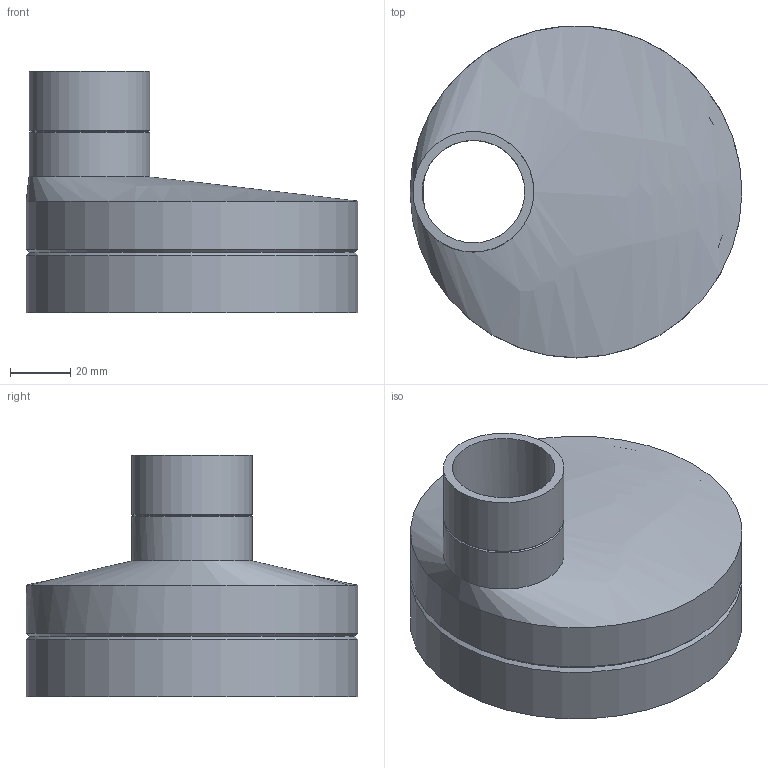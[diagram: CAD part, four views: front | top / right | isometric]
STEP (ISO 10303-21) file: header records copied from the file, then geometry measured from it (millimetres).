
FILE_DESCRIPTION(/* description */ (''),/* implementation_level */ '2;1');
FILE_NAME(/* name */ 'Z:\Geberit\Export\NewStep\367558.stp',/* time_stamp */ '2014-04-02T07:57:27+02:00',/* author */ ('nelson'),/* organization */ (''),/* preprocessor_version */ 'ST-DEVELOPER v15.2',/* originating_system */ 'Autodesk Inventor 2014',/* authorisation */ '');
FILE_SCHEMA (('AUTOMOTIVE_DESIGN { 1 0 10303 214 3 1 1 }'));
Length unit declared in the file: millimetre
Products named in the file (1): 367558
Bounding box: 110 x 110 x 80 mm (x, y, z)
Volume: 71346.6 mm3; surface area: 51163 mm2
Topology: 1 solids, 1 shells, 14 faces, 38 edges, 26 vertices
Faces by surface type: cylinder 6, cone 4, bspline 2, plane 2
Full cylindrical faces by diameter (mm): 34 x1, 40 x2, 101.4 x1, 110 x2
Entity records: 417 total; most frequent: CARTESIAN_POINT 93, DIRECTION 66, ORIENTED_EDGE 44, AXIS2_PLACEMENT_3D 33, EDGE_LOOP 26, EDGE_CURVE 22, CIRCLE 20, VERTEX_POINT 20
